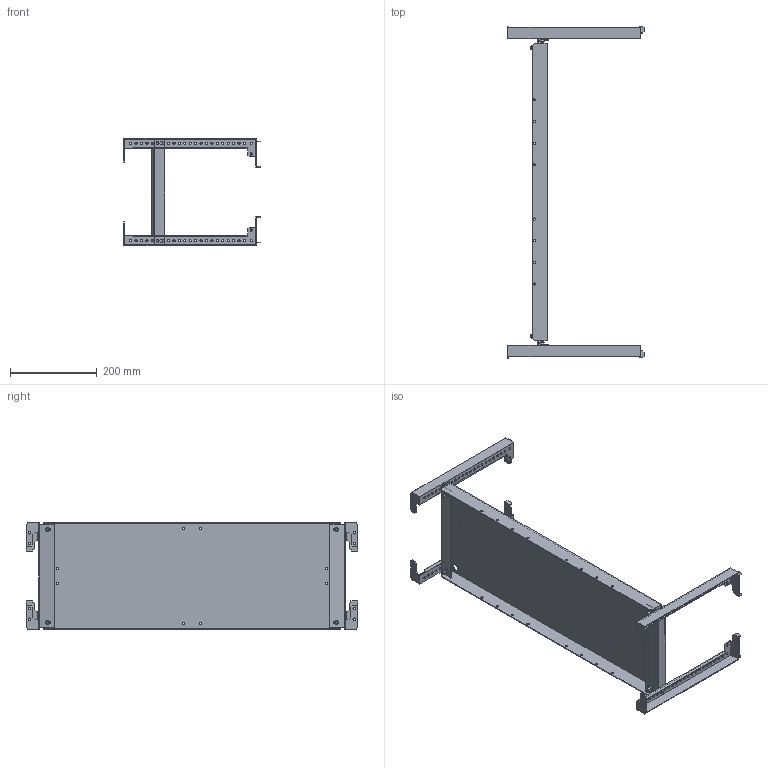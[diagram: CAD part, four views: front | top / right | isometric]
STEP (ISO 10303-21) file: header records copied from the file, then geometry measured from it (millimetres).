
FILE_DESCRIPTION (( 'STEP AP214' ), '1' );
FILE_NAME ('FO-00-MPU-025-080 Ïàíåëü ìîíòàæíàÿ óíèâåðñàëüíàÿ 250x800 ìì.STEP', '2025-09-03T07:50:15', ( '' ), ( '' ), 'SwSTEP 2.0', 'SolidWorks 2023', '' );
FILE_SCHEMA (( 'AUTOMOTIVE_DESIGN' ));
Length unit declared in the file: millimetre
Products named in the file (5): _X2_04220440043004320435044004410430_X0_ _X2_0433043e044004380437043e043d04420430043b044c043d0430044f_X0_D; _X2_041f0430043d0435043b044c_X0_ _X2_043c043e043d044204300436043d0430044f_X0_ _X2_0443043d043804320435044004410430043b044c043d0430044f_X0_ 250_X2_00d7_X0_800; FO-00-MPU-025-080 Панель монтажная универсальная 250x800 мм; _X2_04120438043d0442044b_X0_ DIN 912 4xM6x20 250x800; _X2_04220440043004320435044004410430_X0_ _X2_0433043e044004380437043e043d04420430043b044c043d0430044f_X0_
Assembly tree (6 placements, depth 2):
  FO-00-MPU-025-080 Панель монтажная универсальная 250x800 мм
    _X2_041f0430043d0435043b044c_X0_ _X2_043c043e043d044204300436043d0430044f_X0_ _X2_0443043d043804320435044004410430043b044c043d0430044f_X0_ 250_X2_00d7_X0_800
    _X2_04120438043d0442044b_X0_ DIN 912 4xM6x20 250x800
    _X2_04220440043004320435044004410430_X0_ _X2_0433043e044004380437043e043d04420430043b044c043d0430044f_X0_  x2
    _X2_04220440043004320435044004410430_X0_ _X2_0433043e044004380437043e043d04420430043b044c043d0430044f_X0_D  x2
Bounding box: 314.53 x 766 x 247 mm (x, y, z)
Volume: 704999.1 mm3; surface area: 722095.1 mm2
Topology: 9 solids, 13 shells, 946 faces, 2754 edges, 1882 vertices
Faces by surface type: cylinder 452, plane 402, cone 60, bspline 32
Entity records: 32081 total; most frequent: CARTESIAN_POINT 12339, ORIENTED_EDGE 4272, DIRECTION 3727, EDGE_CURVE 2136, VERTEX_POINT 1466, AXIS2_PLACEMENT_3D 1331, VECTOR 1065, LINE 1065
